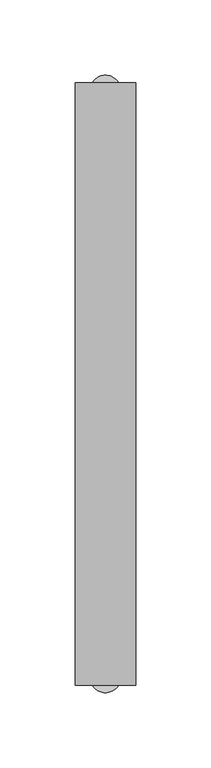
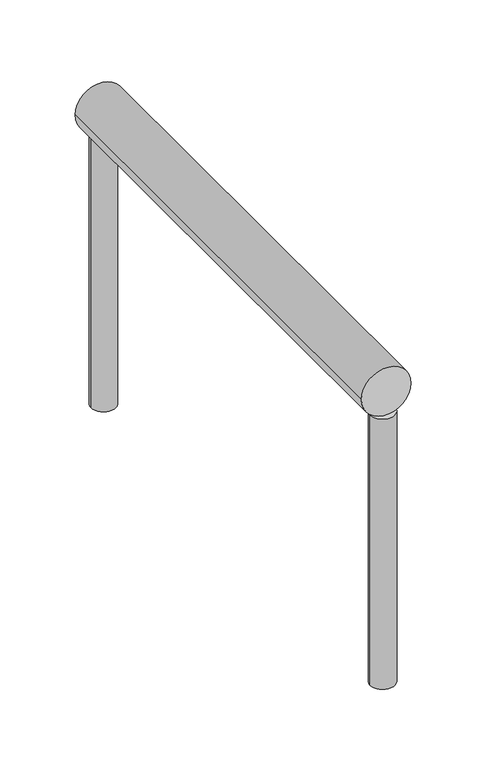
"""IFC4 building model written with IfcOpenShell, lengths in millimetres: railing geometry, Geländer-1."""

from ifc_helpers import new_model, si_unit, point, frame, frame_2d, origin, place, context, project, spatial, circle_curve, trimmed, segment, composite_curve, outline, extrude, source, transform, mapped, element, save


def railing_c633e56d(model_context):
    return source(origin(), model_context, "Body", "SweptSolid", [
        extrude(outline(composite_curve([segment(trimmed(circle_curve(frame_2d((1300.0, 1869.1335905)), 20.0), [point((1300.0, 1889.1335905))], [point((1300.0, 1849.1335905))], False, "CARTESIAN"), True, "CONTINUOUS"), segment(trimmed(circle_curve(frame_2d((1300.0, 1869.1335905)), 20.0), [point((1300.0, 1849.1335905))], [point((1300.0, 1889.1335905))], False, "CARTESIAN"), True, "CONTINUOUS")], self_intersect=False)), frame((0.0, -1120.0, 0.0), z_axis=(0.0, 1.0, 0.0), x_axis=(0.0, 0.0, 1.0)), (0.0, 0.0, 1.0), 400.0),
        extrude(outline(composite_curve([segment(trimmed(circle_curve(frame_2d((1869.1335905, -1115.0)), 10.0), [point((1879.1335905, -1115.0))], [point((1859.1335905, -1115.0))], False, "CARTESIAN"), True, "CONTINUOUS"), segment(trimmed(circle_curve(frame_2d((1869.1335905, -1115.0)), 10.0), [point((1859.1335905, -1115.0))], [point((1879.1335905, -1115.0))], False, "CARTESIAN"), True, "CONTINUOUS")], self_intersect=False)), frame((0.0, 0.0, 1050.0), z_axis=(0.0, 0.0, 1.0), x_axis=(1.0, 0.0, 0.0)), (0.0, 0.0, 1.0), 230.0),
        extrude(outline(composite_curve([segment(trimmed(circle_curve(frame_2d((1869.1335905, -725.0)), 10.0), [point((1879.1335905, -725.0))], [point((1859.1335905, -725.0))], False, "CARTESIAN"), True, "CONTINUOUS"), segment(trimmed(circle_curve(frame_2d((1869.1335905, -725.0)), 10.0), [point((1859.1335905, -725.0))], [point((1879.1335905, -725.0))], False, "CARTESIAN"), True, "CONTINUOUS")], self_intersect=False)), frame((0.0, 0.0, 1050.0), z_axis=(0.0, 0.0, 1.0), x_axis=(1.0, 0.0, 0.0)), (0.0, 0.0, 1.0), 230.0),
    ])


if __name__ == "__main__":
    model = new_model("IFC4")
    model_context = context("Model", 3, world=origin())
    ifc_project = project(units=[si_unit("LENGTHUNIT", "METRE", prefix="MILLI")], contexts=[model_context])
    site = spatial("IfcSite", under=ifc_project)
    building = spatial("IfcBuilding", under=site)
    placement = place(None, origin())
    railing_shape = railing_c633e56d(model_context)
    element("IfcRailing", 1, ObjectType="Geländer-1", at=placement, inside=building, context=model_context, shape_type="MappedRepresentation", body=[
        mapped(railing_shape, transform((0.0, 0.0, 0.0), x_axis=(1.0, 0.0, 0.0), y_axis=(0.0, 1.0, 0.0), z_axis=(0.0, 0.0, 1.0))),
    ])
    save(model, "model.ifc")
